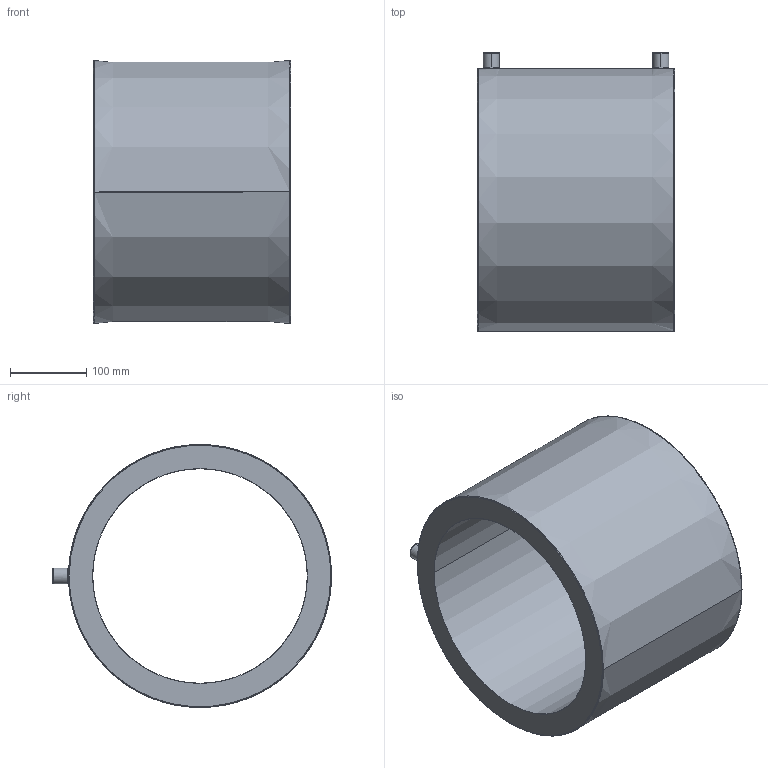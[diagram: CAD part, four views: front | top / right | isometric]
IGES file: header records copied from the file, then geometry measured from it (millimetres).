
Start section: SolidWorks IGES file using analytic representation for surfaces
Global section: file name: G:\Group\Marketing\Public\CAD Offering - Website\1. coupler\280mm coupler.IGS; native system: SolidWorks 2019; preprocessor: SolidWorks 2019; author: hwegrzynska; date: 200122.134706; units: millimetre
Bounding box: 259 x 366.5 x 345.5 mm (x, y, z)
Surface area: 576524.4 mm2 (no closed solid volume)
Topology: 0 solids, 0 shells, 62 faces, 1052 edges, 1049 vertices
Faces by surface type: bspline 34, revolution 28
